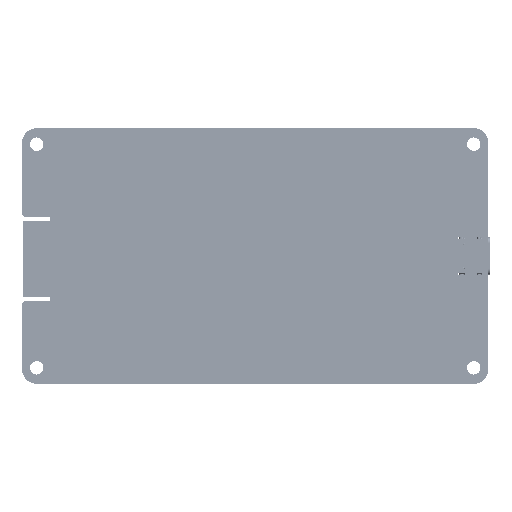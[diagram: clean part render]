
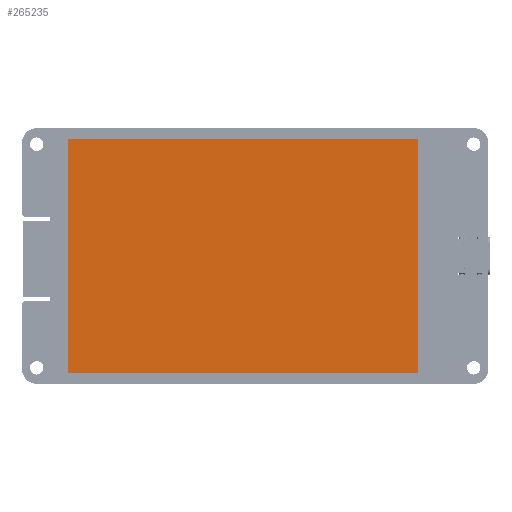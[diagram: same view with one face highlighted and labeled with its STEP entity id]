
A CAD part, top view. The second image highlights one B-rep face of the part: STEP entity #265235.
In plain terms, the highlighted planar face has unit normal (0, 0, 1).
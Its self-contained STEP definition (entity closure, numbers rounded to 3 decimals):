
#265106 = VERTEX_POINT('',#265107);
#265107 = CARTESIAN_POINT('',(-41.76,27.841,2.5));
#265113 = EDGE_CURVE('',#265106,#265114,#265116,.T.);
#265114 = VERTEX_POINT('',#265115);
#265115 = CARTESIAN_POINT('',(41.76,27.841,2.5));
#265116 = LINE('',#265117,#265118);
#265117 = CARTESIAN_POINT('',(-41.76,27.841,2.5));
#265118 = VECTOR('',#265119,1.);
#265119 = DIRECTION('',(1.,0.,0.));
#265144 = EDGE_CURVE('',#265114,#265145,#265147,.T.);
#265145 = VERTEX_POINT('',#265146);
#265146 = CARTESIAN_POINT('',(41.76,-27.841,2.5));
#265147 = LINE('',#265148,#265149);
#265148 = CARTESIAN_POINT('',(41.76,27.841,2.5));
#265149 = VECTOR('',#265150,1.);
#265150 = DIRECTION('',(0.,-1.,0.));
#265175 = EDGE_CURVE('',#265145,#265176,#265178,.T.);
#265176 = VERTEX_POINT('',#265177);
#265177 = CARTESIAN_POINT('',(-41.76,-27.841,2.5));
#265178 = LINE('',#265179,#265180);
#265179 = CARTESIAN_POINT('',(41.76,-27.841,2.5));
#265180 = VECTOR('',#265181,1.);
#265181 = DIRECTION('',(-1.,0.,0.));
#265206 = EDGE_CURVE('',#265176,#265106,#265207,.T.);
#265207 = LINE('',#265208,#265209);
#265208 = CARTESIAN_POINT('',(-41.76,-27.841,2.5));
#265209 = VECTOR('',#265210,1.);
#265210 = DIRECTION('',(0.,1.,0.));
#265235 = ADVANCED_FACE('',(#265236),#265242,.T.);
#265236 = FACE_BOUND('',#265237,.F.);
#265237 = EDGE_LOOP('',(#265238,#265239,#265240,#265241));
#265238 = ORIENTED_EDGE('',*,*,#265113,.T.);
#265239 = ORIENTED_EDGE('',*,*,#265144,.T.);
#265240 = ORIENTED_EDGE('',*,*,#265175,.T.);
#265241 = ORIENTED_EDGE('',*,*,#265206,.T.);
#265242 = PLANE('',#265243);
#265243 = AXIS2_PLACEMENT_3D('',#265244,#265245,#265246);
#265244 = CARTESIAN_POINT('',(-41.76,27.841,2.5));
#265245 = DIRECTION('',(0.,0.,1.));
#265246 = DIRECTION('',(1.,0.,0.));
